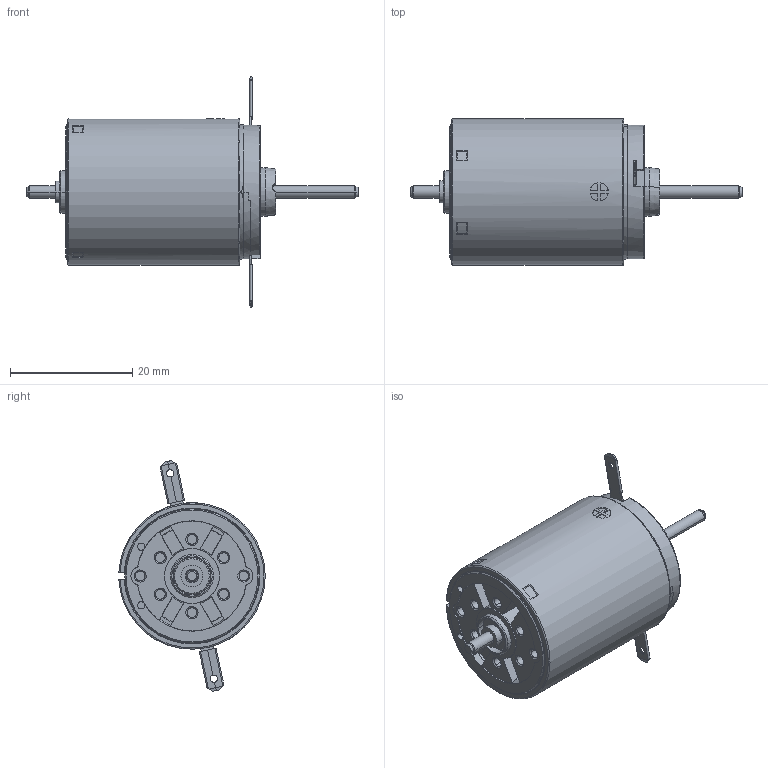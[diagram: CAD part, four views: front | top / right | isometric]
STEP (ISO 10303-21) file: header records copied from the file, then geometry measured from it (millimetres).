
FILE_DESCRIPTION((''),'2;1');
FILE_NAME('222048','2016-11-08T',('mmagpetk'),(''),'CREO PARAMETRIC BY PTC INC, 2016050','CREO PARAMETRIC BY PTC INC, 2016050','');
FILE_SCHEMA(('CONFIG_CONTROL_DESIGN'));
Length unit declared in the file: millimetre
Products named in the file (1): 222048
Bounding box: 54.4 x 23.99 x 37.81 mm (x, y, z)
Volume: 13921.6 mm3; surface area: 4797.7 mm2
Topology: 1 solids, 3 shells, 491 faces, 1212 edges, 755 vertices
Faces by surface type: plane 258, cylinder 141, cone 82, torus 10
Entity records: 21592 total; most frequent: CARTESIAN_POINT 4647, ORIENTED_EDGE 2424, DIRECTION 2354, PRESENTATION_STYLE_ASSIGNMENT 1419, STYLED_ITEM 1256, CURVE_STYLE 1212, EDGE_CURVE 1212, AXIS2_PLACEMENT_3D 855
